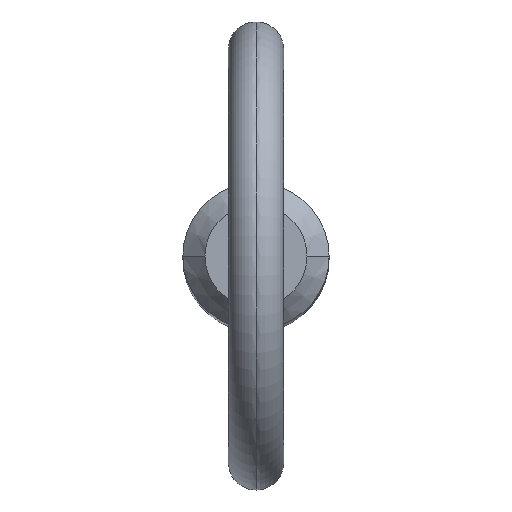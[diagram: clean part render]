
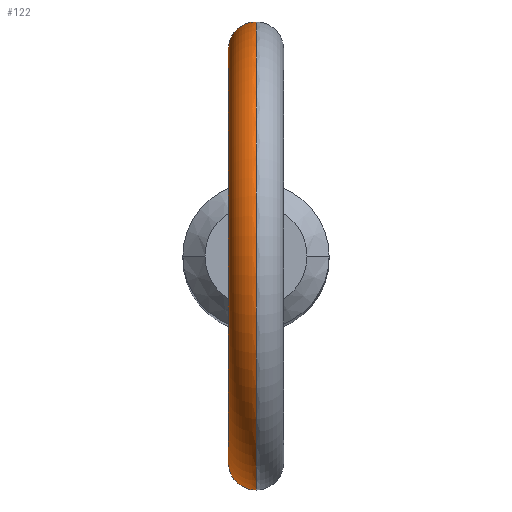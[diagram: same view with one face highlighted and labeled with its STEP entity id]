
A CAD part, top view. The second image highlights one B-rep face of the part: STEP entity #122.
In plain terms, the highlighted toroidal (fillet/blend) face has major radius 11.2 mm and minor radius 1.5 mm.
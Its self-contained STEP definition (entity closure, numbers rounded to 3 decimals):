
#3 = CARTESIAN_POINT ( 'NONE',  ( -1.335, -3.734, 67.41 ) ) ;
#14 = ORIENTED_EDGE ( 'NONE', *, *, #70, .F. ) ;
#21 = VERTEX_POINT ( 'NONE', #435 ) ;
#31 = CARTESIAN_POINT ( 'NONE',  ( 0., -3.965, 69.847 ) ) ;
#33 = VERTEX_POINT ( 'NONE', #31 ) ;
#36 = CARTESIAN_POINT ( 'NONE',  ( -1.508, 3.667, 67.997 ) ) ;
#38 = CARTESIAN_POINT ( 'NONE',  ( -1.186, -3.786, 69.16 ) ) ;
#46 = CARTESIAN_POINT ( 'NONE',  ( -1.167, 3.79, 67.159 ) ) ;
#49 = ORIENTED_EDGE ( 'NONE', *, *, #100, .T. ) ;
#68 = CIRCLE ( 'NONE', #398, 9.7 ) ;
#69 = CARTESIAN_POINT ( 'NONE',  ( -0.102, -3.965, 69.847 ) ) ;
#70 = EDGE_CURVE ( 'NONE', #21, #33, #189, .T. ) ;
#73 = CARTESIAN_POINT ( 'NONE',  ( -0.763, 3.892, 69.591 ) ) ;
#75 = CARTESIAN_POINT ( 'NONE',  ( -0.409, 3.948, 69.792 ) ) ;
#79 = CARTESIAN_POINT ( 'NONE',  ( -1.23, 3.77, 67.24 ) ) ;
#81 = CARTESIAN_POINT ( 'NONE',  ( -0.785, 3.891, 66.827 ) ) ;
#83 = CARTESIAN_POINT ( 'NONE',  ( -0.503, 3.934, 66.712 ) ) ;
#93 = CARTESIAN_POINT ( 'NONE',  ( 0., 0., 78.7 ) ) ;
#100 = EDGE_CURVE ( 'NONE', #315, #33, #68, .T. ) ;
#107 = EDGE_CURVE ( 'NONE', #315, #472, #508, .T. ) ;
#115 = CARTESIAN_POINT ( 'NONE',  ( -1.186, 3.786, 69.16 ) ) ;
#120 = CARTESIAN_POINT ( 'NONE',  ( -1.441, -3.695, 68.608 ) ) ;
#122 = ADVANCED_FACE ( 'NONE', ( #250 ), #261, .T. ) ;
#123 = CARTESIAN_POINT ( 'NONE',  ( -0.206, 3.965, 69.847 ) ) ;
#124 = CARTESIAN_POINT ( 'NONE',  ( -1.168, -3.79, 67.159 ) ) ;
#127 = CARTESIAN_POINT ( 'NONE',  ( -1.48, -3.679, 67.789 ) ) ;
#129 = CARTESIAN_POINT ( 'NONE',  ( -0.958, 3.85, 66.943 ) ) ;
#134 = CARTESIAN_POINT ( 'NONE',  ( -0.406, 3.945, 66.683 ) ) ;
#151 = CARTESIAN_POINT ( 'NONE',  ( 0., 3.965, 69.847 ) ) ;
#156 = CARTESIAN_POINT ( 'NONE',  ( -1.29, -3.75, 68.985 ) ) ;
#158 = CARTESIAN_POINT ( 'NONE',  ( -1.481, 3.679, 67.791 ) ) ;
#161 = CARTESIAN_POINT ( 'NONE',  ( 0., 3.965, 69.847 ) ) ;
#184 = CARTESIAN_POINT ( 'NONE',  ( -0.102, 3.965, 66.635 ) ) ;
#189 = B_SPLINE_CURVE_WITH_KNOTS ( 'NONE', 3,
 ( #498, #199, #205, #354, #247, #124, #201, #3, #285, #127, #314, #440, #120, #156, #38, #357, #245, #287, #204, #474, #69, #443 ),
 .UNSPECIFIED., .F., .F.,
 ( 4, 2, 2, 2, 2, 2, 2, 2, 2, 2, 4 ),
 ( 0.009, 0.01, 0.01, 0.011, 0.011, 0.012, 0.012, 0.013, 0.013, 0.014, 0.014 ),
 .UNSPECIFIED. ) ;
#190 = CIRCLE ( 'NONE', #374, 12.7 ) ;
#199 = CARTESIAN_POINT ( 'NONE',  ( -0.205, -3.965, 66.635 ) ) ;
#201 = CARTESIAN_POINT ( 'NONE',  ( -1.229, -3.77, 67.239 ) ) ;
#204 = CARTESIAN_POINT ( 'NONE',  ( -0.403, -3.946, 69.782 ) ) ;
#205 = CARTESIAN_POINT ( 'NONE',  ( -0.41, -3.948, 66.674 ) ) ;
#228 = ORIENTED_EDGE ( 'NONE', *, *, #107, .F. ) ;
#232 = EDGE_CURVE ( 'NONE', #472, #21, #190, .T. ) ;
#233 = CARTESIAN_POINT ( 'NONE',  ( 0., 0., 78.7 ) ) ;
#241 = CARTESIAN_POINT ( 'NONE',  ( -0.919, 3.858, 69.463 ) ) ;
#245 = CARTESIAN_POINT ( 'NONE',  ( -0.77, -3.894, 69.6 ) ) ;
#247 = CARTESIAN_POINT ( 'NONE',  ( -0.957, -3.85, 66.941 ) ) ;
#250 = FACE_OUTER_BOUND ( 'NONE', #471, .T. ) ;
#261 = TOROIDAL_SURFACE ( 'NONE', #511, 11.2, 1.5 ) ;
#272 = DIRECTION ( 'NONE',  ( 1., 0., 0. ) ) ;
#281 = CARTESIAN_POINT ( 'NONE',  ( -0.678, 3.908, 69.649 ) ) ;
#283 = CARTESIAN_POINT ( 'NONE',  ( -1.29, 3.75, 68.986 ) ) ;
#285 = CARTESIAN_POINT ( 'NONE',  ( -1.379, -3.718, 67.503 ) ) ;
#287 = CARTESIAN_POINT ( 'NONE',  ( -0.498, -3.935, 69.744 ) ) ;
#312 = CARTESIAN_POINT ( 'NONE',  ( -0.99, 3.84, 69.392 ) ) ;
#314 = CARTESIAN_POINT ( 'NONE',  ( -1.508, -3.667, 67.997 ) ) ;
#315 = VERTEX_POINT ( 'NONE', #151 ) ;
#316 = DIRECTION ( 'NONE',  ( 1., 0., 0. ) ) ;
#351 = CARTESIAN_POINT ( 'NONE',  ( -1.488, 3.675, 68.409 ) ) ;
#354 = CARTESIAN_POINT ( 'NONE',  ( -0.788, -3.891, 66.828 ) ) ;
#357 = CARTESIAN_POINT ( 'NONE',  ( -0.925, -3.858, 69.468 ) ) ;
#373 = DIRECTION ( 'NONE',  ( 0., 0., -1. ) ) ;
#374 = AXIS2_PLACEMENT_3D ( 'NONE', #93, #484, #373 ) ;
#375 = CARTESIAN_POINT ( 'NONE',  ( 0., 3.965, 66.635 ) ) ;
#398 = AXIS2_PLACEMENT_3D ( 'NONE', #403, #316, #473 ) ;
#400 = CARTESIAN_POINT ( 'NONE',  ( -1.379, 3.718, 67.502 ) ) ;
#403 = CARTESIAN_POINT ( 'NONE',  ( 0., 0., 78.7 ) ) ;
#422 = CARTESIAN_POINT ( 'NONE',  ( -0.206, 3.961, 66.645 ) ) ;
#435 = CARTESIAN_POINT ( 'NONE',  ( 0., -3.965, 66.635 ) ) ;
#440 = CARTESIAN_POINT ( 'NONE',  ( -1.488, -3.675, 68.405 ) ) ;
#441 = CARTESIAN_POINT ( 'NONE',  ( -1.336, 3.734, 67.412 ) ) ;
#443 = CARTESIAN_POINT ( 'NONE',  ( 0., -3.965, 69.847 ) ) ;
#457 = ORIENTED_EDGE ( 'NONE', *, *, #232, .F. ) ;
#461 = DIRECTION ( 'NONE',  ( 0., 0., -1. ) ) ;
#467 = CARTESIAN_POINT ( 'NONE',  ( 0., 3.965, 66.635 ) ) ;
#471 = EDGE_LOOP ( 'NONE', ( #457, #228, #49, #14 ) ) ;
#472 = VERTEX_POINT ( 'NONE', #375 ) ;
#473 = DIRECTION ( 'NONE',  ( 0., 0., -1. ) ) ;
#474 = CARTESIAN_POINT ( 'NONE',  ( -0.206, -3.961, 69.834 ) ) ;
#484 = DIRECTION ( 'NONE',  ( 1., 0., 0. ) ) ;
#498 = CARTESIAN_POINT ( 'NONE',  ( 0., -3.965, 66.635 ) ) ;
#508 = B_SPLINE_CURVE_WITH_KNOTS ( 'NONE', 3,
 ( #161, #123, #75, #281, #73, #241, #312, #115, #283, #510, #351, #36, #158, #400, #441, #79, #46, #129, #81, #83, #134, #422, #184, #467 ),
 .UNSPECIFIED., .F., .F.,
 ( 4, 2, 2, 2, 2, 2, 2, 2, 2, 2, 2, 4 ),
 ( 0.006, 0.006, 0.007, 0.007, 0.007, 0.008, 0.009, 0.009, 0.009, 0.01, 0.01, 0.01 ),
 .UNSPECIFIED. ) ;
#510 = CARTESIAN_POINT ( 'NONE',  ( -1.442, 3.694, 68.606 ) ) ;
#511 = AXIS2_PLACEMENT_3D ( 'NONE', #233, #272, #461 ) ;
